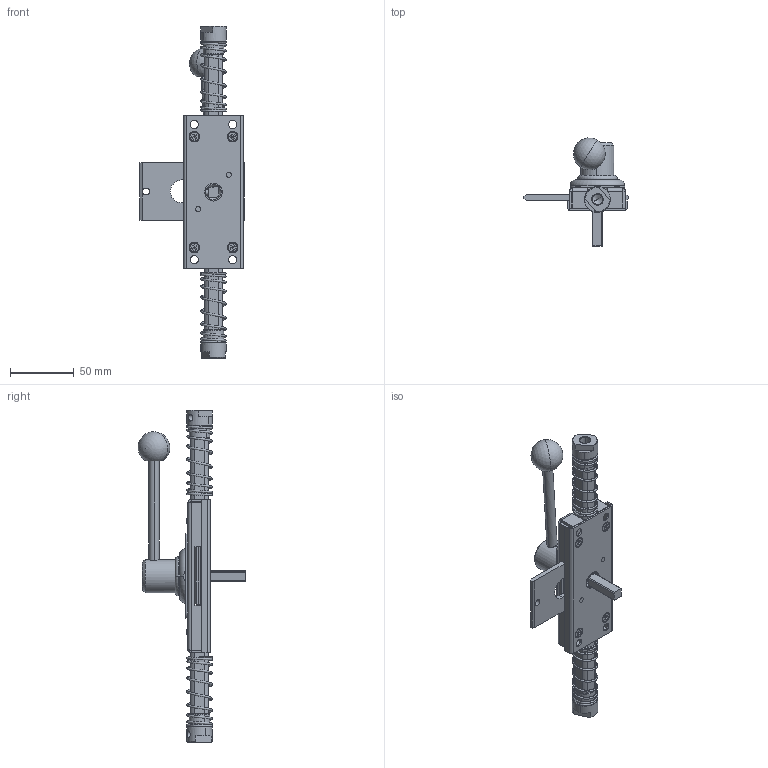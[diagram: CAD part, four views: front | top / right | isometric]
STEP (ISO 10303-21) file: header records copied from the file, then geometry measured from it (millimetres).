
FILE_DESCRIPTION (( 'STEP AP214' ), '1' );
FILE_NAME ('1B.ZWP8.P - zamek wewnetrzny panik ZWP prawy.STEP', '2016-09-07T09:45:30', ( '' ), ( '' ), 'SwSTEP 2.0', 'SolidWorks 2015', '' );
FILE_SCHEMA (( 'AUTOMOTIVE_DESIGN' ));
Length unit declared in the file: millimetre
Products named in the file (28): 1B.ZW.006_A; 1B.ZW.005_B.L; 1B.ZW.004_A; 1B.ZW.005.04_A; 5.SP.001_A; 1B.ZW.005.03_B; M4_M4 x 8; 1B.ZW.005.02_A; 1B.SAP.000.00.03_1B.SAP.000.00.03.D8; 1B.ZW.005.01_A; 1B.ZW.012_A.35; 1B.ZW.003_A; 1B.ZW.013_A; 1B.ZW.001_A; 1B.ZW.014_K.02; 1B.ZW.002_B; 1B.ZW.015_A; 1B.ZW.016_A; 1B.ZWP8.P - zamek wewnetrzny panik ZWP prawy; 1B.ZW.020_A; 1B.ZW.011.02_K.01; 1B.ZW.011_A; 1B.ZW.011.03_A; 1B.ZW.011.01_A; 1B.ZW.010_A; 1B.ZW.009_A; 1B.ZW.008_A; 1B.ZW.007_A
Assembly tree (40 placements, depth 3):
  1B.ZWP8.P - zamek wewnetrzny panik ZWP prawy
    1B.ZW.002_B
    1B.ZW.001_A
    1B.ZW.003_A  x4
    1B.ZW.005_B.L  x2
      1B.ZW.005.01_A
      1B.ZW.005.02_A
      1B.ZW.005.03_B
      1B.ZW.005.04_A
    1B.ZW.006_A
    1B.ZW.007_A
    1B.ZW.008_A
    1B.ZW.009_A
    1B.ZW.010_A
    1B.ZW.011_A
      1B.ZW.011.01_A
      1B.ZW.011.03_A
    1B.ZW.011.02_K.01
    1B.ZW.020_A
    1B.ZW.016_A
    1B.ZW.015_A
    1B.ZW.014_K.02
    1B.ZW.013_A
    1B.ZW.012_A.35
    1B.SAP.000.00.03_1B.SAP.000.00.03.D8  x2
    M4_M4 x 8  x8
    5.SP.001_A  x2
    1B.ZW.004_A
Bounding box: 82 x 84.52 x 260.35 mm (x, y, z)
Volume: 121680.5 mm3; surface area: 96263.7 mm2
Topology: 43 solids, 43 shells, 1057 faces, 2478 edges, 1522 vertices
Faces by surface type: plane 458, cylinder 323, cone 212, torus 40, bspline 22, sphere 2
Entity records: 33634 total; most frequent: CARTESIAN_POINT 16568, DIRECTION 3465, ORIENTED_EDGE 3110, EDGE_CURVE 1555, AXIS2_PLACEMENT_3D 1345, VERTEX_POINT 969, EDGE_LOOP 780, VECTOR 775
